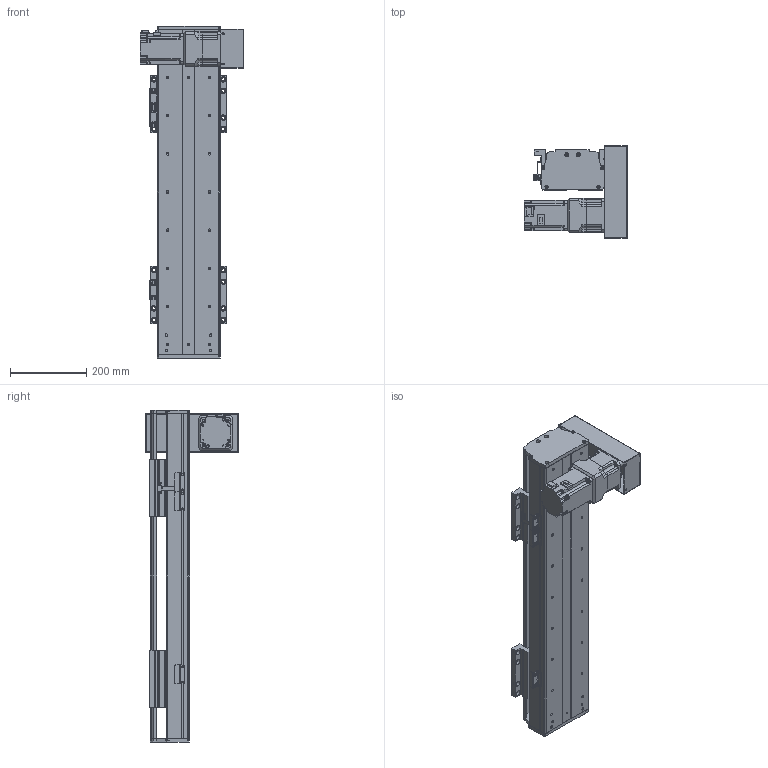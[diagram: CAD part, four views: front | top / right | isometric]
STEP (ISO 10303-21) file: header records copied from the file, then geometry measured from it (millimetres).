
FILE_DESCRIPTION(/* description */ (''),/* implementation_level */ '2;1');
FILE_NAME(/* name */ 'C:\Users\PC\Desktop\3D도면\STEP\새 폴더\DSB165-DR7G-W0500-L.stp',/* time_stamp */ '2018-06-25T15:50:06+09:00',/* author */ ('PC'),/* organization */ (''),/* preprocessor_version */ 'ST-DEVELOPER v16.5',/* originating_system */ 'Autodesk Inventor 2017',/* authorisation */ '');
FILE_SCHEMA (('AUTOMOTIVE_DESIGN { 1 0 10303 214 3 1 1 }'));
Length unit declared in the file: millimetre
Products named in the file (12): DSB165-DL7G-W0500-R_MIR; DSB165-BASE-L_MIR; hg-kr73__MIR; ab0901-p0401300102_MIR; 11-DSB165 BELT COVER_MIR; 12-DSB165-REAR COVER_MIR; 14-DSB165-FRONT COVER_MIR; DSB165-UP COVER_MIR; DSB165-TABLE(MSB20S)_MIR; DSR165-SENSOR DOG_MIR; SENSOR BRACKET(EE-SX674A)_MIR; pm-y65_step_MIR
Assembly tree (16 placements, depth 2):
  DSB165-DL7G-W0500-R_MIR
    DSB165-BASE-L_MIR
    hg-kr73__MIR
    ab0901-p0401300102_MIR
    11-DSB165 BELT COVER_MIR
    12-DSB165-REAR COVER_MIR
    14-DSB165-FRONT COVER_MIR
    DSB165-UP COVER_MIR
    DSB165-TABLE(MSB20S)_MIR  x2
    DSR165-SENSOR DOG_MIR
    pm-y65_step_MIR  x3
    SENSOR BRACKET(EE-SX674A)_MIR  x3
Bounding box: 270 x 242 x 870 mm (x, y, z)
Volume: 6582677.4 mm3; surface area: 1510220.1 mm2
Topology: 17 solids, 17 shells, 1645 faces, 4426 edges, 2920 vertices
Faces by surface type: plane 921, cylinder 608, cone 104, sphere 8, torus 4
Full cylindrical faces by diameter (mm): 2.459 x20, 3.5 x6, 4.134 x42, 4.5 x18, 5 x27, 5.5 x36, 5.9 x4, 6 x4, 6.6 x14, 6.647 x32, 6.8 x1, 7 x4, 7.6 x4, 8.4 x1, 8.5 x24, 8.7 x1, 9.5 x32, 11 x6, 14 x16, 19 x1, 22 x1, 24 x1, 25 x1, 28 x1, 67 x1, 70 x2, 80 x1
Entity records: 35668 total; most frequent: DIRECTION 6170, CARTESIAN_POINT 6003, ORIENTED_EDGE 5490, EDGE_CURVE 2745, AXIS2_PLACEMENT_3D 2255, VERTEX_POINT 1950, EDGE_LOOP 1687, LINE 1660
